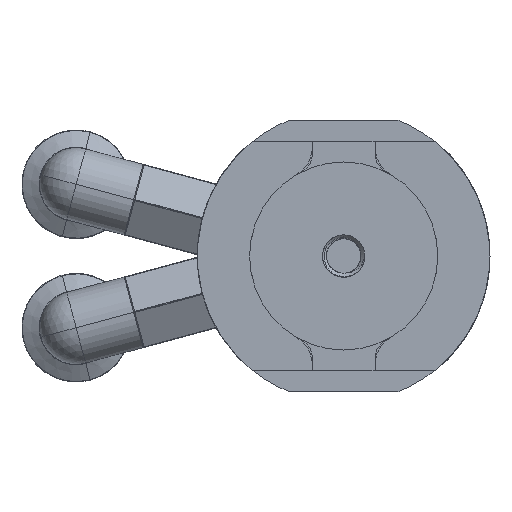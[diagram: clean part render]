
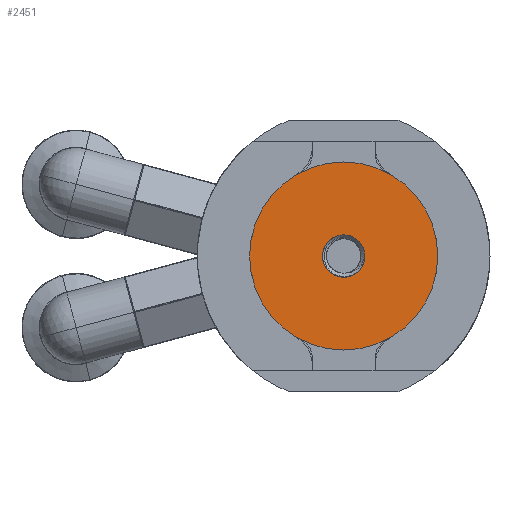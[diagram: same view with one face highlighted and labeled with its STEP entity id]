
A CAD part, front view. The second image highlights one B-rep face of the part: STEP entity #2451.
In plain terms, the highlighted planar face has unit normal (0, -1, 0).
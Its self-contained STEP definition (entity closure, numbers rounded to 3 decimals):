
#546 = EDGE_CURVE ( 'NONE', #26475, #4797, #28537, .T. ) ;
#587 = EDGE_CURVE ( 'NONE', #15939, #4635, #15530, .T. ) ;
#592 = VERTEX_POINT ( 'NONE', #25899 ) ;
#875 = DIRECTION ( 'NONE',  ( 0., -1., 0. ) ) ;
#913 = EDGE_CURVE ( 'NONE', #4797, #26275, #1820, .T. ) ;
#1253 = AXIS2_PLACEMENT_3D ( 'NONE', #20530, #14152, #24900 ) ;
#1428 = DIRECTION ( 'NONE',  ( 0., 0., 1. ) ) ;
#1820 = B_SPLINE_CURVE_WITH_KNOTS ( 'NONE', 3,
 ( #17068, #8515, #21686, #23899 ),
 .UNSPECIFIED., .F., .F.,
 ( 4, 4 ),
 ( 0.004, 0.004 ),
 .UNSPECIFIED. ) ;
#1940 = ORIENTED_EDGE ( 'NONE', *, *, #587, .F. ) ;
#2449 = CARTESIAN_POINT ( 'NONE',  ( 0., 0., 0. ) ) ;
#2451 = ADVANCED_FACE ( 'NONE', ( #6838, #15646 ), #5491, .F. ) ;
#3051 = VERTEX_POINT ( 'NONE', #24546 ) ;
#3551 = AXIS2_PLACEMENT_3D ( 'NONE', #8062, #21659, #28234 ) ;
#4253 = CARTESIAN_POINT ( 'NONE',  ( 2.021, 0., 0.152 ) ) ;
#4635 = VERTEX_POINT ( 'NONE', #27524 ) ;
#4636 = CARTESIAN_POINT ( 'NONE',  ( 1.822, 0., -0.903 ) ) ;
#4797 = VERTEX_POINT ( 'NONE', #15180 ) ;
#4927 = CARTESIAN_POINT ( 'NONE',  ( 0., 0., 0. ) ) ;
#4998 = AXIS2_PLACEMENT_3D ( 'NONE', #13221, #9286, #26575 ) ;
#5202 = CARTESIAN_POINT ( 'NONE',  ( 0., 0., -2.025 ) ) ;
#5396 = EDGE_CURVE ( 'NONE', #24168, #592, #7701, .T. ) ;
#5491 = PLANE ( 'NONE',  #1253 ) ;
#5827 = EDGE_LOOP ( 'NONE', ( #12652, #21406, #7569, #16125, #22517, #17874 ) ) ;
#5995 = CIRCLE ( 'NONE', #22141, 2.025 ) ;
#6595 = EDGE_CURVE ( 'NONE', #3051, #26475, #5995, .T. ) ;
#6639 = EDGE_LOOP ( 'NONE', ( #1940, #19957 ) ) ;
#6660 = CARTESIAN_POINT ( 'NONE',  ( 1.963, 0., -0.532 ) ) ;
#6838 = FACE_OUTER_BOUND ( 'NONE', #6639, .T. ) ;
#6934 = CARTESIAN_POINT ( 'NONE',  ( 2.023, 0., 0.138 ) ) ;
#7569 = ORIENTED_EDGE ( 'NONE', *, *, #6595, .F. ) ;
#7701 = B_SPLINE_CURVE_WITH_KNOTS ( 'NONE', 3,
 ( #26266, #6934, #4253, #17935 ),
 .UNSPECIFIED., .F., .F.,
 ( 4, 4 ),
 ( 0., 0. ),
 .UNSPECIFIED. ) ;
#8062 = CARTESIAN_POINT ( 'NONE',  ( 0., 0., 0. ) ) ;
#8515 = CARTESIAN_POINT ( 'NONE',  ( 1.504, 0., -1.358 ) ) ;
#8800 = DIRECTION ( 'NONE',  ( 0., 0., -1. ) ) ;
#8942 = CARTESIAN_POINT ( 'NONE',  ( 2.025, 0., 0.123 ) ) ;
#9230 = DIRECTION ( 'NONE',  ( 0., 0., -1. ) ) ;
#9286 = DIRECTION ( 'NONE',  ( 0., 1., 0. ) ) ;
#10070 = CIRCLE ( 'NONE', #4998, 9. ) ;
#10111 = B_SPLINE_CURVE_WITH_KNOTS ( 'NONE', 3,
 ( #21850, #17381, #10838, #4636, #26520, #6660, #19837, #15612, #26239, #8942 ),
 .UNSPECIFIED., .F., .F.,
 ( 4, 2, 2, 2, 4 ),
 ( 0., 0., 0.001, 0.001, 0.002 ),
 .UNSPECIFIED. ) ;
#10838 = CARTESIAN_POINT ( 'NONE',  ( 1.69, 0., -1.131 ) ) ;
#10910 = AXIS2_PLACEMENT_3D ( 'NONE', #26183, #12406, #1428 ) ;
#11403 = CIRCLE ( 'NONE', #22988, 2.025 ) ;
#12406 = DIRECTION ( 'NONE',  ( 0., 1., 0. ) ) ;
#12652 = ORIENTED_EDGE ( 'NONE', *, *, #913, .F. ) ;
#13221 = CARTESIAN_POINT ( 'NONE',  ( 0., 0., 0. ) ) ;
#14152 = DIRECTION ( 'NONE',  ( 0., 1., 0. ) ) ;
#15180 = CARTESIAN_POINT ( 'NONE',  ( 1.494, 0., -1.367 ) ) ;
#15530 = CIRCLE ( 'NONE', #10910, 9. ) ;
#15612 = CARTESIAN_POINT ( 'NONE',  ( 2.028, 0., -0.142 ) ) ;
#15646 = FACE_BOUND ( 'NONE', #5827, .T. ) ;
#15939 = VERTEX_POINT ( 'NONE', #25472 ) ;
#16125 = ORIENTED_EDGE ( 'NONE', *, *, #23306, .F. ) ;
#16423 = CARTESIAN_POINT ( 'NONE',  ( 2.025, 0., 0.123 ) ) ;
#17068 = CARTESIAN_POINT ( 'NONE',  ( 1.494, 0., -1.367 ) ) ;
#17381 = CARTESIAN_POINT ( 'NONE',  ( 1.612, 0., -1.24 ) ) ;
#17874 = ORIENTED_EDGE ( 'NONE', *, *, #22317, .F. ) ;
#17935 = CARTESIAN_POINT ( 'NONE',  ( 2.018, 0., 0.166 ) ) ;
#19837 = CARTESIAN_POINT ( 'NONE',  ( 1.993, 0., -0.402 ) ) ;
#19957 = ORIENTED_EDGE ( 'NONE', *, *, #24395, .F. ) ;
#20098 = DIRECTION ( 'NONE',  ( 0., -1., 0. ) ) ;
#20530 = CARTESIAN_POINT ( 'NONE',  ( 0., 0., 0. ) ) ;
#21406 = ORIENTED_EDGE ( 'NONE', *, *, #546, .F. ) ;
#21659 = DIRECTION ( 'NONE',  ( 0., -1., 0. ) ) ;
#21686 = CARTESIAN_POINT ( 'NONE',  ( 1.514, 0., -1.349 ) ) ;
#21850 = CARTESIAN_POINT ( 'NONE',  ( 1.524, 0., -1.34 ) ) ;
#22141 = AXIS2_PLACEMENT_3D ( 'NONE', #2449, #20098, #8800 ) ;
#22317 = EDGE_CURVE ( 'NONE', #26275, #24168, #10111, .T. ) ;
#22517 = ORIENTED_EDGE ( 'NONE', *, *, #5396, .F. ) ;
#22988 = AXIS2_PLACEMENT_3D ( 'NONE', #4927, #875, #9230 ) ;
#23306 = EDGE_CURVE ( 'NONE', #592, #3051, #11403, .T. ) ;
#23899 = CARTESIAN_POINT ( 'NONE',  ( 1.524, 0., -1.34 ) ) ;
#24168 = VERTEX_POINT ( 'NONE', #16423 ) ;
#24395 = EDGE_CURVE ( 'NONE', #4635, #15939, #10070, .T. ) ;
#24546 = CARTESIAN_POINT ( 'NONE',  ( 0., 0., 2.025 ) ) ;
#24758 = CARTESIAN_POINT ( 'NONE',  ( 1.524, 0., -1.34 ) ) ;
#24900 = DIRECTION ( 'NONE',  ( 0., 0., 1. ) ) ;
#25472 = CARTESIAN_POINT ( 'NONE',  ( 0., 0., -9. ) ) ;
#25899 = CARTESIAN_POINT ( 'NONE',  ( 2.018, 0., 0.166 ) ) ;
#26183 = CARTESIAN_POINT ( 'NONE',  ( 0., 0., 0. ) ) ;
#26239 = CARTESIAN_POINT ( 'NONE',  ( 2.033, 0., -0.01 ) ) ;
#26266 = CARTESIAN_POINT ( 'NONE',  ( 2.025, 0., 0.123 ) ) ;
#26275 = VERTEX_POINT ( 'NONE', #24758 ) ;
#26475 = VERTEX_POINT ( 'NONE', #5202 ) ;
#26520 = CARTESIAN_POINT ( 'NONE',  ( 1.876, 0., -0.783 ) ) ;
#26575 = DIRECTION ( 'NONE',  ( 0., 0., 1. ) ) ;
#27524 = CARTESIAN_POINT ( 'NONE',  ( 0., 0., 9. ) ) ;
#28234 = DIRECTION ( 'NONE',  ( 0., 0., -1. ) ) ;
#28537 = CIRCLE ( 'NONE', #3551, 2.025 ) ;
